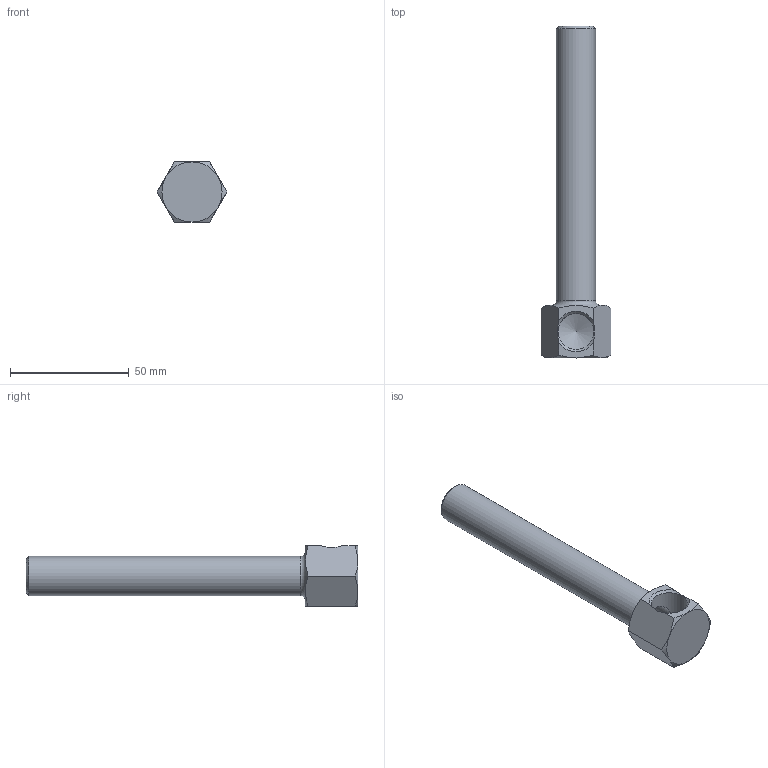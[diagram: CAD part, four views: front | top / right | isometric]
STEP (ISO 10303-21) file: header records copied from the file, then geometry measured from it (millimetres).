
FILE_DESCRIPTION(/* description */ (''),/* implementation_level */ '2;1');
FILE_NAME(/* name */ 'C:/Users/drich/Desktop/38B-5-1_2 v1.step',/* time_stamp */ '2019-12-29T15:23:39-06:00',/* author */ (''),/* organization */ (''),/* preprocessor_version */ 'ST-DEVELOPER v18',/* originating_system */ 'Autodesk Translation Framework v8.12.0.6',/* authorisation */ '');
FILE_SCHEMA (('AUTOMOTIVE_DESIGN { 1 0 10303 214 3 1 1 }'));
Length unit declared in the file: inch
Products named in the file (1): 38B-5-1_2
Bounding box: 29.33 x 139.7 x 25.4 mm (x, y, z)
Volume: 20459 mm3; surface area: 14259.7 mm2
Topology: 1 solids, 1 shells, 20 faces, 53 edges, 35 vertices
Faces by surface type: plane 10, cone 6, cylinder 3, torus 1
Full cylindrical faces by diameter (mm): 11.887 x1, 15.173 x1, 16.537 x1
Entity records: 687 total; most frequent: CARTESIAN_POINT 184, ORIENTED_EDGE 104, DIRECTION 91, EDGE_CURVE 52, AXIS2_PLACEMENT_3D 37, VERTEX_POINT 35, EDGE_LOOP 23, FACE_OUTER_BOUND 20
